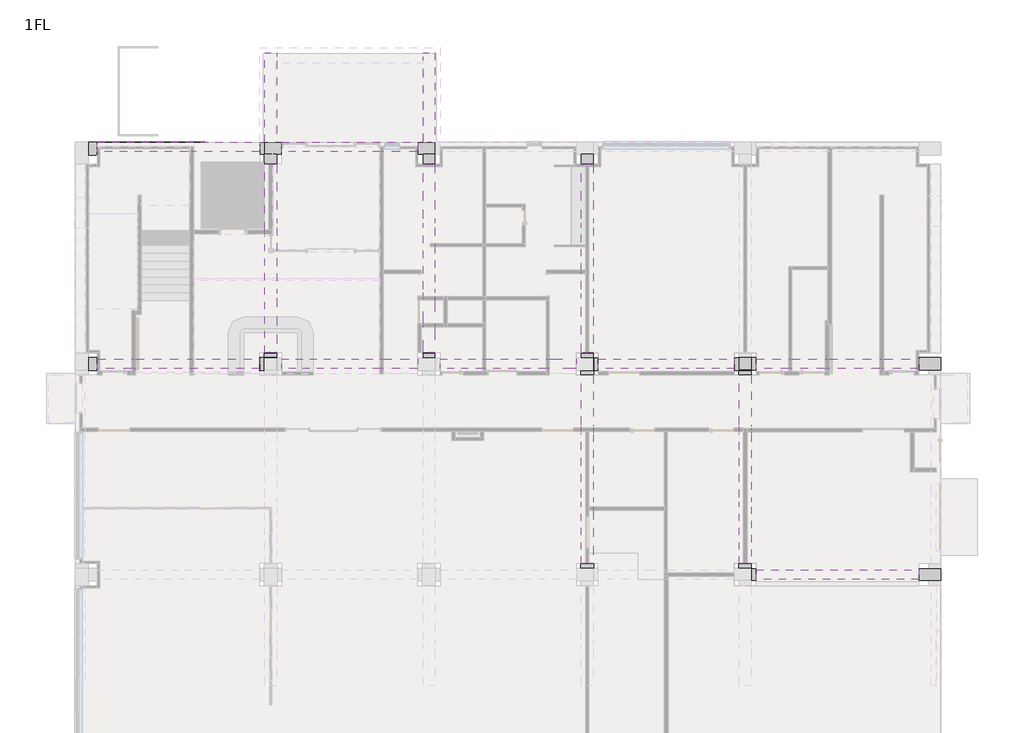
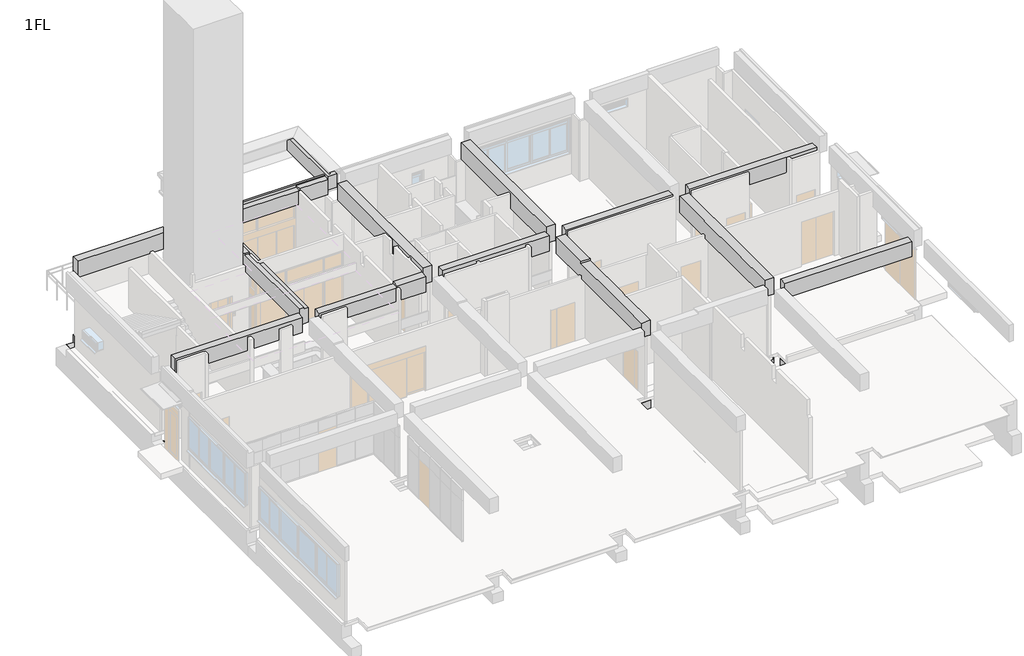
# One storey, part 6 of 7: 41 beams.
"""IFC4 building model written with IfcOpenShell, lengths in millimetres."""

from ifc_helpers import new_model, si_unit, frame, origin, place, context, project, spatial, polyline, outline, extrude, faceted_brep, element, save

model = new_model("IFC4")

# Units and contexts
model_context = context("Model", 3, world=origin())
ifc_project = project(units=[si_unit("LENGTHUNIT", "METRE", prefix="MILLI")], contexts=[model_context])

# Site, building, storey
site = spatial("IfcSite", under=ifc_project)
building = spatial("IfcBuilding", under=site)
storey = spatial("IfcBuildingStorey", under=building, Name="1FL", Elevation=0.0)

# Beams
placement = place(None, origin())
element("IfcBeam", 1, ObjectType="営_RC梁 : 2-RG2 350*850", at=placement, inside=storey, context=model_context, shape_type="SweptSolid", body=[
    extrude(outline(polyline([(25420.0, 7825.0), (25420.0, 8175.0), (31580.0, 8175.0), (31580.0, 7825.0), (25420.0, 7825.0)])), frame((0.0, 0.0, 3150.0), z_axis=(0.0, 0.0, 1.0), x_axis=(1.0, 0.0, 0.0)), (0.0, 0.0, 1.0), 790.0),
])
element("IfcBeam", 2, ObjectType="営_RC梁 : 2-RG2 350*850", at=placement, inside=storey, context=model_context, shape_type="Brep", body=[
    faceted_brep([(420.0, 15825.0, 3150.0), (1725.0, 15825.0, 3150.0), (1875.0, 15825.0, 3150.0), (6580.0, 15825.0, 3150.0), (6580.0, 15825.0, 3940.0), (420.0, 15825.0, 3940.0), (6580.0, 16175.0, 3150.0), (420.0, 16175.0, 3150.0), (1725.0, 16175.0, 3150.0), (1875.0, 16175.0, 3150.0), (420.0, 16175.0, 3940.0), (3825.0, 16175.0, 3940.0), (4175.0, 16175.0, 3940.0), (6580.0, 16175.0, 3940.0)], [[[0, 1, 2, 3, 4, 5]], [[6, 3, 2, 1, 0, 7, 8, 9]], [[6, 9, 8, 7, 10, 11, 12, 13]], [[3, 6, 13, 4]], [[7, 0, 5, 10]], [[5, 4, 13, 12, 11, 10]]]),
])
element("IfcBeam", 3, ObjectType="営_RC梁 : 2-RG2 350*850", at=placement, inside=storey, context=model_context, shape_type="Brep", body=[
    faceted_brep([(7420.0, 15825.0, 3150.0), (11140.0, 15825.0, 3150.0), (11260.0, 15825.0, 3150.0), (12580.0, 15825.0, 3150.0), (12580.0, 15825.0, 3940.0), (11200.0, 15825.0, 3940.0), (11200.0, 15825.0, 3850.0), (11140.0, 15825.0, 3850.0), (7420.0, 15825.0, 3850.0), (7420.0, 16175.0, 3150.0), (11140.0, 16175.0, 3150.0), (11260.0, 16175.0, 3150.0), (12580.0, 16175.0, 3150.0), (7420.0, 16175.0, 3850.0), (11140.0, 16175.0, 3850.0), (11200.0, 16175.0, 3850.0), (11200.0, 16175.0, 3940.0), (12580.0, 16175.0, 3940.0)], [[[0, 1, 2, 3, 4, 5, 6, 7, 8]], [[0, 9, 10, 11, 12, 3, 2, 1]], [[12, 11, 10, 9, 13, 14, 15, 16, 17]], [[9, 0, 8, 13]], [[3, 12, 17, 4]], [[6, 15, 14, 13, 8, 7]], [[15, 6, 5, 16]], [[5, 4, 17, 16]]]),
])
element("IfcBeam", 4, ObjectType="営_RC梁 : 2-RG2 350*850", at=placement, inside=storey, context=model_context, shape_type="Brep", body=[
    faceted_brep([(13420.0, 15825.0, 3150.0), (15040.0, 15825.0, 3150.0), (15160.0, 15825.0, 3150.0), (17440.0, 15825.0, 3150.0), (17560.0, 15825.0, 3150.0), (18580.0, 15825.0, 3150.0), (18580.0, 15825.0, 3940.0), (13420.0, 15825.0, 3940.0), (13420.0, 16175.0, 3150.0), (15040.0, 16175.0, 3150.0), (15160.0, 16175.0, 3150.0), (17440.0, 16175.0, 3150.0), (17560.0, 16175.0, 3150.0), (18580.0, 16175.0, 3150.0), (13420.0, 16175.0, 3940.0), (18580.0, 16175.0, 3940.0)], [[[0, 1, 2, 3, 4, 5, 6, 7]], [[0, 8, 9, 10, 11, 12, 13, 5, 4, 3, 2, 1]], [[13, 12, 11, 10, 9, 8, 14, 15]], [[8, 0, 7, 14]], [[5, 13, 15, 6]], [[7, 6, 15, 14]]]),
])
element("IfcBeam", 5, ObjectType="営_RC梁 : 2-RG2 350*850", at=placement, inside=storey, context=model_context, shape_type="SweptSolid", body=[
    extrude(outline(polyline([(19420.0, 15825.0), (19420.0, 16175.0), (24580.0, 16175.0), (24580.0, 15825.0), (19420.0, 15825.0)])), frame((0.0, 0.0, 3150.0), z_axis=(0.0, 0.0, 1.0), x_axis=(1.0, 0.0, 0.0)), (0.0, 0.0, 1.0), 790.0),
])
element("IfcBeam", 6, ObjectType="営_RC梁 : 2-RG2 350*850", at=placement, inside=storey, context=model_context, shape_type="Brep", body=[
    faceted_brep([(25420.0, 15825.0, 3150.0), (26640.0, 15825.0, 3150.0), (26760.0, 15825.0, 3150.0), (28025.0, 15825.0, 3150.0), (28175.0, 15825.0, 3150.0), (30105.0, 15825.0, 3150.0), (30255.0, 15825.0, 3150.0), (31580.0, 15825.0, 3150.0), (31580.0, 15825.0, 3940.0), (25420.0, 15825.0, 3940.0), (25420.0, 16175.0, 3150.0), (26640.0, 16175.0, 3150.0), (26760.0, 16175.0, 3150.0), (28025.0, 16175.0, 3150.0), (28175.0, 16175.0, 3150.0), (30105.0, 16175.0, 3150.0), (30255.0, 16175.0, 3150.0), (31580.0, 16175.0, 3150.0), (25420.0, 16175.0, 3940.0), (31580.0, 16175.0, 3940.0)], [[[0, 1, 2, 3, 4, 5, 6, 7, 8, 9]], [[0, 10, 11, 12, 13, 14, 15, 16, 17, 7, 6, 5, 4, 3, 2, 1]], [[17, 16, 15, 14, 13, 12, 11, 10, 18, 19]], [[10, 0, 9, 18]], [[7, 17, 19, 8]], [[9, 8, 19, 18]]]),
])
element("IfcBeam", 7, ObjectType="営_RC梁 : 2-RG1 350*850", at=placement, inside=storey, context=model_context, shape_type="Brep", body=[
    faceted_brep([(420.0, 24050.0, 4000.0), (420.0, 24420.0, 4000.0), (420.0, 24420.0, 3150.0), (420.0, 24250.0, 3150.0), (420.0, 24050.0, 3150.0), (3925.0, 24050.0, 3150.0), (4075.0, 24050.0, 3150.0), (6580.0, 24050.0, 3150.0), (6580.0, 24050.0, 4000.0), (4175.0, 24050.0, 4000.0), (3825.0, 24050.0, 4000.0), (6580.0, 24420.0, 3150.0), (6580.0, 24250.0, 3150.0), (6580.0, 24420.0, 4000.0)], [[[0, 1, 2, 3, 4]], [[0, 4, 5, 6, 7, 8, 9, 10]], [[4, 3, 2, 11, 12, 7, 6, 5]], [[2, 1, 13, 11]], [[1, 0, 10, 9, 8, 13]], [[8, 7, 12, 11, 13]]]),
])
element("IfcBeam", 8, ObjectType="営_RC梁 : 2-RG1 350*850", at=placement, inside=storey, context=model_context, shape_type="Brep", body=[
    faceted_brep([(7420.0, 24420.0, 4000.0), (7420.0, 24420.0, 3150.0), (7420.0, 24250.0, 3150.0), (7420.0, 24050.0, 3150.0), (7420.0, 24050.0, 3850.0), (7420.0, 24250.0, 3850.0), (7420.0, 24335.0, 3850.0), (7420.0, 24335.0, 4000.0), (11140.0, 24050.0, 3150.0), (11260.0, 24050.0, 3150.0), (12580.0, 24050.0, 3150.0), (12580.0, 24050.0, 3940.0), (11200.0, 24050.0, 3940.0), (11200.0, 24050.0, 3850.0), (11140.0, 24050.0, 3850.0), (12580.0, 24420.0, 3150.0), (12580.0, 24250.0, 3150.0), (12580.0, 24420.0, 4000.0), (12580.0, 24335.0, 4000.0), (12580.0, 24335.0, 3940.0), (12580.0, 24250.0, 3940.0), (11200.0, 24335.0, 3850.0), (11200.0, 24250.0, 3850.0), (11200.0, 24250.0, 3940.0), (11200.0, 24335.0, 3940.0)], [[[0, 1, 2, 3, 4, 5, 6, 7]], [[3, 8, 9, 10, 11, 12, 13, 14, 4]], [[3, 2, 1, 15, 16, 10, 9, 8]], [[1, 0, 17, 15]], [[17, 0, 7, 18]], [[10, 16, 15, 17, 18, 19, 20, 11]], [[21, 6, 5, 4, 14, 13, 22]], [[21, 22, 13, 12, 23, 24]], [[6, 21, 24, 19, 18, 7]], [[19, 24, 23, 12, 11, 20]]]),
])
element("IfcBeam", 9, ObjectType="営_RC梁 : 2-4G12 450*900", at=placement, inside=storey, context=model_context, shape_type="Brep", body=[
    faceted_brep([(7225.0, 16420.0, 3100.0), (7225.0, 23580.0, 3100.0), (7225.0, 23580.0, 3850.0), (7225.0, 21515.0, 3850.0), (7225.0, 21165.0, 3850.0), (7225.0, 18845.0, 3850.0), (7225.0, 18495.0, 3850.0), (7225.0, 16420.0, 3850.0), (6775.0, 16420.0, 3100.0), (6775.0, 20925.0, 3100.0), (6775.0, 21075.0, 3100.0), (6775.0, 23580.0, 3100.0), (6925.0, 23580.0, 3100.0), (7075.0, 23580.0, 3100.0), (6775.0, 23580.0, 4000.0), (6775.0, 16420.0, 3940.0), (6775.0, 20825.0, 3940.0), (6775.0, 21000.0, 3940.0), (6775.0, 21000.0, 4000.0), (6775.0, 21075.0, 4000.0), (7000.0, 23580.0, 4000.0), (7000.0, 21000.0, 4000.0), (7000.0, 16420.0, 3850.0), (7000.0, 16420.0, 3940.0), (7000.0, 23580.0, 3850.0), (7000.0, 21000.0, 3940.0)], [[[0, 1, 2, 3, 4, 5, 6, 7]], [[0, 8, 9, 10, 11, 12, 13, 1]], [[14, 11, 10, 9, 8, 15, 16, 17, 18, 19]], [[20, 14, 19, 18, 21]], [[8, 0, 7, 22, 23, 15]], [[1, 13, 12, 11, 14, 20, 24, 2]], [[24, 22, 7, 6, 5, 4, 3, 2]], [[22, 24, 20, 21, 25, 23]], [[25, 17, 16, 15, 23]], [[17, 25, 21, 18]]]),
])
element("IfcBeam", 10, ObjectType="営_RC梁 : 2-4G12 450*900", at=placement, inside=storey, context=model_context, shape_type="Brep", body=[
    faceted_brep([(13225.0, 16420.0, 3100.0), (13225.0, 17400.0, 3100.0), (13225.0, 17520.0, 3100.0), (13225.0, 18430.0, 3100.0), (13225.0, 18550.0, 3100.0), (13225.0, 20450.0, 3100.0), (13225.0, 20570.0, 3100.0), (13225.0, 23580.0, 3100.0), (13225.0, 23580.0, 3940.0), (13225.0, 21515.0, 3940.0), (13225.0, 21165.0, 3940.0), (13225.0, 18845.0, 3940.0), (13225.0, 18495.0, 3940.0), (13225.0, 16420.0, 3940.0), (12775.0, 16420.0, 3100.0), (12775.0, 17400.0, 3100.0), (12775.0, 17520.0, 3100.0), (12775.0, 18430.0, 3100.0), (12775.0, 18550.0, 3100.0), (12775.0, 23580.0, 3100.0), (12775.0, 16420.0, 3940.0), (12775.0, 18495.0, 3940.0), (12775.0, 18845.0, 3940.0), (12775.0, 21165.0, 3940.0), (12775.0, 21515.0, 3940.0), (12775.0, 23580.0, 3940.0)], [[[0, 1, 2, 3, 4, 5, 6, 7, 8, 9, 10, 11, 12, 13]], [[0, 14, 15, 16, 17, 18, 19, 7, 6, 5, 4, 3, 2, 1]], [[19, 18, 17, 16, 15, 14, 20, 21, 22, 23, 24, 25]], [[14, 0, 13, 20]], [[7, 19, 25, 8]], [[13, 12, 11, 10, 9, 8, 25, 24, 23, 22, 21, 20]]]),
])
element("IfcBeam", 11, ObjectType="営_RC梁 : 2-4G12 450*900", at=placement, inside=storey, context=model_context, shape_type="Brep", body=[
    faceted_brep([(19225.0, 8420.0, 3100.0), (19225.0, 10440.0, 3100.0), (19225.0, 10560.0, 3100.0), (19225.0, 13440.0, 3100.0), (19225.0, 13560.0, 3100.0), (19225.0, 15580.0, 3100.0), (19225.0, 15580.0, 3940.0), (19225.0, 13675.0, 3940.0), (19225.0, 13500.0, 3940.0), (19225.0, 13500.0, 3850.0), (19225.0, 13325.0, 3850.0), (19225.0, 10925.0, 3850.0), (19225.0, 10575.0, 3850.0), (19225.0, 10560.0, 3850.0), (19225.0, 10440.0, 3850.0), (19225.0, 8420.0, 3850.0), (19060.0, 8420.0, 3100.0), (18940.0, 8420.0, 3100.0), (18775.0, 8420.0, 3100.0), (18775.0, 13440.0, 3100.0), (18775.0, 13560.0, 3100.0), (18775.0, 15580.0, 3100.0), (18775.0, 8420.0, 3850.0), (18775.0, 10575.0, 3850.0), (18775.0, 10925.0, 3850.0), (18775.0, 13325.0, 3850.0), (18775.0, 13500.0, 3850.0), (18775.0, 13500.0, 3940.0), (18775.0, 13675.0, 3940.0), (18775.0, 15580.0, 3940.0)], [[[0, 1, 2, 3, 4, 5, 6, 7, 8, 9, 10, 11, 12, 13, 14, 15]], [[0, 16, 17, 18, 19, 20, 21, 5, 4, 3, 2, 1]], [[21, 20, 19, 18, 22, 23, 24, 25, 26, 27, 28, 29]], [[18, 17, 16, 0, 15, 22]], [[5, 21, 29, 6]], [[9, 26, 25, 24, 23, 22, 15, 14, 13, 12, 11, 10]], [[26, 9, 8, 27]], [[8, 7, 6, 29, 28, 27]]]),
])
element("IfcBeam", 12, ObjectType="営_RC梁 : 2-4G12 450*900", at=placement, inside=storey, context=model_context, shape_type="Brep", body=[
    faceted_brep([(19225.0, 16420.0, 3100.0), (19225.0, 23580.0, 3100.0), (19225.0, 23580.0, 3940.0), (19225.0, 21515.0, 3940.0), (19225.0, 21165.0, 3940.0), (19225.0, 18845.0, 3940.0), (19225.0, 18495.0, 3940.0), (19225.0, 16420.0, 3940.0), (19060.0, 16420.0, 3100.0), (18940.0, 16420.0, 3100.0), (18775.0, 16420.0, 3100.0), (18775.0, 19430.0, 3100.0), (18775.0, 19550.0, 3100.0), (18775.0, 23580.0, 3100.0), (18940.0, 23580.0, 3100.0), (19060.0, 23580.0, 3100.0), (18775.0, 16420.0, 3940.0), (18775.0, 18495.0, 3940.0), (18775.0, 18845.0, 3940.0), (18775.0, 21165.0, 3940.0), (18775.0, 21515.0, 3940.0), (18775.0, 23580.0, 3940.0)], [[[0, 1, 2, 3, 4, 5, 6, 7]], [[0, 8, 9, 10, 11, 12, 13, 14, 15, 1]], [[13, 12, 11, 10, 16, 17, 18, 19, 20, 21]], [[10, 9, 8, 0, 7, 16]], [[1, 15, 14, 13, 21, 2]], [[7, 6, 5, 4, 3, 2, 21, 20, 19, 18, 17, 16]]]),
])
element("IfcBeam", 13, ObjectType="営_RC梁 : 2-4G12 450*900", at=placement, inside=storey, context=model_context, shape_type="Brep", body=[
    faceted_brep([(25225.0, 8420.0, 3100.0), (25225.0, 13405.0, 3100.0), (25225.0, 13555.0, 3100.0), (25225.0, 15580.0, 3100.0), (25225.0, 15580.0, 3940.0), (25225.0, 13675.0, 3940.0), (25225.0, 13325.0, 3940.0), (25225.0, 10925.0, 3940.0), (25225.0, 10575.0, 3940.0), (25225.0, 8420.0, 3940.0), (25075.0, 8420.0, 3100.0), (24925.0, 8420.0, 3100.0), (24775.0, 8420.0, 3100.0), (24775.0, 13440.0, 3100.0), (24775.0, 13560.0, 3100.0), (24775.0, 15580.0, 3100.0), (24775.0, 8420.0, 3940.0), (24775.0, 10575.0, 3940.0), (24775.0, 10925.0, 3940.0), (24775.0, 13325.0, 3940.0), (24775.0, 13675.0, 3940.0), (24775.0, 15580.0, 3940.0)], [[[0, 1, 2, 3, 4, 5, 6, 7, 8, 9]], [[0, 10, 11, 12, 13, 14, 15, 3, 2, 1]], [[15, 14, 13, 12, 16, 17, 18, 19, 20, 21]], [[12, 11, 10, 0, 9, 16]], [[3, 15, 21, 4]], [[9, 8, 7, 6, 5, 4, 21, 20, 19, 18, 17, 16]]]),
])
element("IfcBeam", 14, ObjectType="営_RC梁 : FG1 450*1200", at=placement, inside=storey, context=model_context, shape_type="Brep", body=[
    faceted_brep([(420.0, 23930.0, -400.0), (400.0, 23930.0, -400.0), (70.0, 23930.0, -400.0), (70.0, 23930.0, -1300.0), (1500.0, 23930.0, -1300.0), (4124.0, 23930.0, -1300.0), (4514.0, 23930.0, -1300.0), (4514.0, 23930.0, -10.0), (4124.0, 23930.0, -10.0), (4075.0, 23930.0, -10.0), (4075.0, 23930.0, -160.0), (420.0, 23930.0, -160.0), (70.0, 24420.0, -1300.0), (1500.0, 24420.0, -1300.0), (4124.0, 24420.0, -1300.0), (4514.0, 24420.0, -1300.0), (4514.0, 24400.0, -1300.0), (4514.0, 23950.0, -1300.0), (420.0, 24420.0, -400.0), (420.0, 24420.0, -10.0), (4514.0, 24420.0, -10.0), (4514.0, 24420.0, -300.0), (70.0, 24420.0, -400.0), (4514.0, 24250.0, -10.0), (420.0, 24250.0, -10.0), (4075.0, 24250.0, -10.0), (420.0, 24250.0, -160.0), (4075.0, 24250.0, -160.0)], [[[0, 1, 2, 3, 4, 5, 6, 7, 8, 9, 10, 11]], [[3, 12, 13, 14, 15, 16, 17, 6, 5, 4]], [[18, 19, 20, 21, 15, 14, 13, 12, 22]], [[7, 23, 20, 19, 24, 25, 9, 8]], [[0, 18, 22, 2, 1]], [[18, 0, 11, 26, 24, 19]], [[3, 2, 22, 12]], [[7, 6, 17, 16, 15, 21, 20, 23]], [[27, 26, 11, 10]], [[25, 27, 10, 9]], [[27, 25, 24, 26]]]),
])
element("IfcBeam", 15, ObjectType="営_RC梁 : FG2 450*1200", at=placement, inside=storey, context=model_context, shape_type="Brep", body=[
    faceted_brep([(7227.3929084, 15755.0, -950.0), (6755.0, 15755.0, -950.0), (6600.0, 15755.0, -950.0), (6580.0, 15755.0, -950.0), (6580.0, 15755.0, -160.0), (420.0, 15755.0, -160.0), (420.0, 15755.0, -400.0), (400.0, 15755.0, -400.0), (70.0, 15755.0, -400.0), (70.0, 15755.0, -1300.0), (1500.0, 15755.0, -1300.0), (5350.0, 15755.0, -1300.0), (6755.0, 15755.0, -1300.0), (7227.3929084, 15755.0, -1300.0), (7225.0, 16245.0, -1300.0), (7225.0, 16000.0, -1300.0), (7227.3929084, 16000.0, -1300.0), (70.0, 16245.0, -1300.0), (1500.0, 16245.0, -1300.0), (5350.0, 16245.0, -1300.0), (6755.0, 16245.0, -1300.0), (6580.0, 16245.0, -950.0), (6600.0, 16245.0, -950.0), (6755.0, 16245.0, -950.0), (7225.0, 16245.0, -950.0), (70.0, 16245.0, -400.0), (400.0, 16245.0, -400.0), (420.0, 16245.0, -400.0), (420.0, 16245.0, -160.0), (6580.0, 16245.0, -160.0), (7227.3929084, 16000.0, -950.0), (7225.0, 16000.0, -950.0), (7225.0, 16225.0, -950.0)], [[[0, 1, 2, 3, 4, 5, 6, 7, 8, 9, 10, 11, 12, 13]], [[14, 15, 16, 13, 12, 11, 10, 9, 17, 18, 19, 20]], [[21, 22, 23, 24, 14, 20, 19, 18, 17, 25, 26, 27, 28, 29]], [[13, 16, 30, 0]], [[21, 3, 2, 1, 0, 30, 31, 32, 24, 23, 22]], [[3, 21, 29, 4]], [[6, 27, 26, 25, 8, 7]], [[27, 6, 5, 28]], [[15, 14, 24, 32, 31]], [[9, 8, 25, 17]], [[16, 15, 31, 30]], [[5, 4, 29, 28]]]),
])
element("IfcBeam", 16, ObjectType="営_RC梁 : FG3 450*1850", at=placement, inside=storey, context=model_context, shape_type="Brep", body=[
    faceted_brep([(19420.0, 15755.0, -950.0), (19400.0, 15755.0, -950.0), (19245.0, 15755.0, -950.0), (18772.6070916, 15755.0, -950.0), (18772.6070916, 15755.0, -1950.0), (20650.0, 15755.0, -1950.0), (23350.0, 15755.0, -1950.0), (24755.0, 15755.0, -1950.0), (25225.0, 15755.0, -1950.0), (25225.0, 15755.0, -1500.0), (24755.0, 15755.0, -1500.0), (24600.0, 15755.0, -1500.0), (24580.0, 15755.0, -1500.0), (24580.0, 15755.0, -250.0), (19420.0, 15755.0, -250.0), (24755.0, 15775.0, -1950.0), (25225.0, 15775.0, -1950.0), (18772.6070916, 16000.0, -1950.0), (18775.0, 16000.0, -1950.0), (18775.0, 16225.0, -1950.0), (19225.0, 16225.0, -1950.0), (20650.0, 16225.0, -1950.0), (23350.0, 16225.0, -1950.0), (24755.0, 16225.0, -1950.0), (18775.0, 16225.0, -950.0), (19225.0, 16225.0, -950.0), (19400.0, 16225.0, -950.0), (19420.0, 16225.0, -950.0), (19420.0, 16225.0, -250.0), (24580.0, 16225.0, -250.0), (24580.0, 16225.0, -1500.0), (24600.0, 16225.0, -1500.0), (24755.0, 16225.0, -1500.0), (18772.6070916, 16000.0, -950.0), (18775.0, 16000.0, -950.0), (25225.0, 15775.0, -1500.0), (24755.0, 15775.0, -1500.0)], [[[0, 1, 2, 3, 4, 5, 6, 7, 8, 9, 10, 11, 12, 13, 14]], [[15, 16, 8, 7, 6, 5, 4, 17, 18, 19, 20, 21, 22, 23]], [[24, 25, 26, 27, 28, 29, 30, 31, 32, 23, 22, 21, 20, 19]], [[17, 4, 3, 33]], [[0, 27, 26, 25, 24, 34, 33, 3, 2, 1]], [[27, 0, 14, 28]], [[12, 30, 29, 13]], [[9, 8, 16, 35]], [[30, 12, 11, 10, 9, 35, 36, 32, 31]], [[16, 15, 36, 35]], [[15, 23, 32, 36]], [[18, 17, 33, 34]], [[19, 18, 34, 24]], [[14, 13, 29, 28]]]),
])
element("IfcBeam", 17, ObjectType="営_RC梁 : FG4 450*2400", at=placement, inside=storey, context=model_context, shape_type="Brep", body=[
    faceted_brep([(25420.0, 15775.0, -1500.0), (25400.0, 15775.0, -1500.0), (25225.0, 15775.0, -1500.0), (24755.0, 15775.0, -1500.0), (24755.0, 15775.0, -1950.0), (24755.0, 15775.0, -2500.0), (25225.0, 15775.0, -2500.0), (26650.0, 15775.0, -2500.0), (30650.0, 15775.0, -2500.0), (31950.0, 15775.0, -2500.0), (32420.0, 15775.0, -2500.0), (32420.0, 15775.0, -1900.0), (31950.0, 15775.0, -1900.0), (31600.0, 15775.0, -1900.0), (31580.0, 15775.0, -1900.0), (31580.0, 15775.0, -160.0), (25420.0, 15775.0, -160.0), (32420.0, 16245.0, -2500.0), (24755.0, 16245.0, -2500.0), (26650.0, 16245.0, -2500.0), (30650.0, 16245.0, -2500.0), (24755.0, 16245.0, -1500.0), (24775.0, 16245.0, -1500.0), (25225.0, 16245.0, -1500.0), (25400.0, 16245.0, -1500.0), (25420.0, 16245.0, -1500.0), (25420.0, 16245.0, -160.0), (28025.0, 16245.0, -160.0), (28395.0, 16245.0, -160.0), (31580.0, 16245.0, -160.0), (31580.0, 16245.0, -1900.0), (31600.0, 16245.0, -1900.0), (32400.0, 16245.0, -1900.0), (32420.0, 16245.0, -1900.0), (32420.0, 16245.0, -1904.2105263), (24755.0, 16225.0, -1500.0)], [[[0, 1, 2, 3, 4, 5, 6, 7, 8, 9, 10, 11, 12, 13, 14, 15, 16]], [[17, 10, 9, 8, 7, 6, 5, 18, 19, 20]], [[21, 22, 23, 24, 25, 26, 27, 28, 29, 30, 31, 32, 33, 34, 17, 20, 19, 18]], [[25, 0, 16, 26]], [[14, 30, 29, 15]], [[10, 17, 34, 33, 11]], [[0, 25, 24, 23, 22, 21, 35, 3, 2, 1]], [[30, 14, 13, 12, 11, 33, 32, 31]], [[18, 5, 4, 3, 35, 21]], [[16, 15, 29, 28, 27, 26]]]),
])
element("IfcBeam", 18, ObjectType="営_RC梁 : FG4 450*2400", at=placement, inside=storey, context=model_context, shape_type="Brep", body=[
    faceted_brep([(24775.0, 7775.0, -1500.0), (24775.0, 7775.0, -2500.0), (25225.0, 7775.0, -2500.0), (26650.0, 7775.0, -2500.0), (26650.0, 7775.0, -2300.0), (30500.0, 7775.0, -2300.0), (30500.0, 7775.0, -2500.0), (31950.0, 7775.0, -2500.0), (32420.0, 7775.0, -2500.0), (32420.0, 7775.0, -1500.0), (31950.0, 7775.0, -1500.0), (31600.0, 7775.0, -1500.0), (31580.0, 7775.0, -1500.0), (31580.0, 7775.0, -160.0), (25420.0, 7775.0, -160.0), (25420.0, 7775.0, -1500.0), (25400.0, 7775.0, -1500.0), (25225.0, 7775.0, -1500.0), (32420.0, 8225.0, -2500.0), (30500.0, 8225.0, -2500.0), (31950.0, 8225.0, -2500.0), (24775.0, 8225.0, -2500.0), (24775.0, 8225.0, -1500.0), (25225.0, 8225.0, -1500.0), (25400.0, 8225.0, -1500.0), (25420.0, 8225.0, -1500.0), (25420.0, 8225.0, -160.0), (31580.0, 8225.0, -160.0), (31580.0, 8225.0, -1500.0), (31600.0, 8225.0, -1500.0), (31950.0, 8225.0, -1500.0), (32420.0, 8225.0, -1500.0), (30500.0, 8225.0, -2300.0), (26650.0, 8225.0, -2300.0), (26650.0, 8225.0, -2500.0), (25225.0, 8225.0, -2500.0)], [[[0, 1, 2, 3, 4, 5, 6, 7, 8, 9, 10, 11, 12, 13, 14, 15, 16, 17]], [[18, 8, 7, 6, 19, 20]], [[21, 22, 23, 24, 25, 26, 27, 28, 29, 30, 31, 18, 20, 19, 32, 33, 34, 35]], [[25, 15, 14, 26]], [[12, 28, 27, 13]], [[21, 1, 0, 22]], [[8, 18, 31, 9]], [[15, 25, 24, 23, 22, 0, 17, 16]], [[28, 12, 11, 10, 9, 31, 30, 29]], [[32, 5, 4, 33]], [[5, 32, 19, 6]], [[33, 4, 3, 34]], [[1, 21, 35, 34, 3, 2]], [[14, 13, 27, 26]]]),
])
element("IfcBeam", 19, ObjectType="営_RC梁 : FG3 450*1850", at=placement, inside=storey, context=model_context, shape_type="Brep", body=[
    faceted_brep([(7420.0, 23950.0, -950.0), (7225.0, 23950.0, -950.0), (6755.0, 23950.0, -950.0), (6755.0, 23950.0, -1300.0), (6755.0, 23950.0, -1950.0), (7225.0, 23950.0, -1950.0), (8500.0, 23950.0, -1950.0), (11650.0, 23950.0, -1950.0), (12775.0, 23950.0, -1950.0), (13225.0, 23950.0, -1950.0), (13225.0, 23950.0, -1350.0), (12775.0, 23950.0, -1350.0), (12600.0, 23950.0, -1350.0), (12580.0, 23950.0, -1350.0), (12580.0, 23950.0, -160.0), (11375.0, 23950.0, -160.0), (11025.0, 23950.0, -160.0), (7420.0, 23950.0, -160.0), (6755.0, 24420.0, -1950.0), (8500.0, 24420.0, -1950.0), (11650.0, 24420.0, -1950.0), (13225.0, 24420.0, -1950.0), (6755.0, 24420.0, -950.0), (7420.0, 24420.0, -950.0), (7420.0, 24420.0, -10.0), (11340.0, 24420.0, -10.0), (11860.0, 24420.0, -10.0), (12580.0, 24420.0, -10.0), (12580.0, 24420.0, -1350.0), (13225.0, 24420.0, -1350.0), (6755.0, 24420.0, -1455.4545455), (7420.0, 24250.0, -10.0), (12580.0, 24250.0, -10.0), (6755.0, 24400.0, -950.0), (7420.0, 24250.0, -160.0), (12580.0, 24250.0, -160.0)], [[[0, 1, 2, 3, 4, 5, 6, 7, 8, 9, 10, 11, 12, 13, 14, 15, 16, 17]], [[4, 18, 19, 20, 21, 9, 8, 7, 6, 5]], [[22, 23, 24, 25, 26, 27, 28, 29, 21, 20, 19, 18, 30]], [[27, 26, 25, 24, 31, 32]], [[0, 23, 22, 33, 2, 1]], [[23, 0, 17, 34, 31, 24]], [[28, 27, 32, 35, 14, 13]], [[18, 4, 3, 2, 33, 22, 30]], [[9, 21, 29, 10]], [[28, 13, 12, 11, 10, 29]], [[35, 34, 17, 16, 15, 14]], [[34, 35, 32, 31]]]),
])
element("IfcBeam", 20, ObjectType="営_RC梁 : FG13 450*1850", at=placement, inside=storey, context=model_context, shape_type="Brep", body=[
    faceted_brep([(7225.0, 16420.0, -950.0), (7225.0, 16400.0, -950.0), (7225.0, 16225.0, -950.0), (7225.0, 15755.0, -950.0), (7225.0, 15755.0, -1300.0), (7225.0, 15755.0, -1950.0), (7225.0, 16225.0, -1950.0), (7225.0, 17650.0, -1950.0), (7225.0, 22500.0, -1950.0), (7225.0, 23950.0, -1950.0), (7225.0, 23950.0, -1450.0), (7225.0, 23950.0, -950.0), (7225.0, 23580.0, -950.0), (7225.0, 23580.0, -160.0), (7225.0, 16420.0, -160.0), (6755.0, 15755.0, -1950.0), (6755.0, 17650.0, -1950.0), (6755.0, 22500.0, -1950.0), (6755.0, 23950.0, -1950.0), (6755.0, 15755.0, -950.0), (6755.0, 16245.0, -950.0), (6755.0, 16400.0, -950.0), (6755.0, 16420.0, -950.0), (6755.0, 16420.0, -160.0), (6755.0, 21075.0, -160.0), (6755.0, 21075.0, -10.0), (6755.0, 23580.0, -10.0), (6755.0, 23580.0, -950.0), (6755.0, 23950.0, -950.0), (6755.0, 15755.0, -1300.0), (6925.0, 23580.0, -10.0), (6925.0, 21075.0, -10.0), (6925.0, 23580.0, -160.0), (6925.0, 21075.0, -160.0)], [[[0, 1, 2, 3, 4, 5, 6, 7, 8, 9, 10, 11, 12, 13, 14]], [[5, 15, 16, 17, 18, 9, 8, 7, 6]], [[19, 20, 21, 22, 23, 24, 25, 26, 27, 28, 18, 17, 16, 15, 29]], [[30, 26, 25, 31]], [[15, 5, 4, 3, 19, 29]], [[0, 22, 21, 20, 19, 3, 2, 1]], [[22, 0, 14, 23]], [[27, 12, 11, 28]], [[12, 27, 26, 30, 32, 13]], [[11, 10, 9, 18, 28]], [[32, 33, 24, 23, 14, 13]], [[33, 31, 25, 24]], [[31, 33, 32, 30]]]),
])
element("IfcBeam", 21, ObjectType="営_RC梁 : FG13 450*1850", at=placement, inside=storey, context=model_context, shape_type="Brep", body=[
    faceted_brep([(13225.0, 16420.0, -950.0), (13225.0, 16400.0, -950.0), (13225.0, 16225.0, -950.0), (13225.0, 15755.0, -950.0), (13225.0, 15755.0, -1300.0), (13225.0, 15755.0, -1950.0), (13225.0, 16225.0, -1950.0), (13225.0, 17650.0, -1950.0), (13225.0, 22650.0, -1950.0), (13225.0, 23950.0, -1950.0), (13225.0, 23950.0, -1350.0), (13225.0, 23600.0, -1350.0), (13225.0, 23580.0, -1350.0), (13225.0, 23580.0, -160.0), (13225.0, 21515.0, -160.0), (13225.0, 21165.0, -160.0), (13225.0, 18845.0, -160.0), (13225.0, 18495.0, -160.0), (13225.0, 16420.0, -160.0), (12775.0, 15755.0, -1950.0), (12775.0, 16225.0, -1950.0), (12775.0, 17650.0, -1950.0), (12775.0, 22650.0, -1950.0), (12775.0, 23950.0, -1950.0), (12775.0, 15755.0, -950.0), (12775.0, 16225.0, -950.0), (12775.0, 16400.0, -950.0), (12775.0, 16420.0, -950.0), (12775.0, 16420.0, -160.0), (12775.0, 23580.0, -160.0), (12775.0, 23580.0, -1350.0), (12775.0, 23600.0, -1350.0), (12775.0, 23950.0, -1350.0)], [[[0, 1, 2, 3, 4, 5, 6, 7, 8, 9, 10, 11, 12, 13, 14, 15, 16, 17, 18]], [[5, 19, 20, 21, 22, 23, 9, 8, 7, 6]], [[24, 25, 26, 27, 28, 29, 30, 31, 32, 23, 22, 21, 20, 19]], [[19, 5, 4, 3, 24]], [[0, 27, 26, 25, 24, 3, 2, 1]], [[27, 0, 18, 28]], [[12, 30, 29, 13]], [[30, 12, 11, 10, 32, 31]], [[10, 9, 23, 32]], [[18, 17, 16, 15, 14, 13, 29, 28]]]),
])
element("IfcBeam", 22, ObjectType="営_RC梁 : FG12 450*1200", at=placement, inside=storey, context=model_context, shape_type="Brep", body=[
    faceted_brep([(19245.0, 7775.0, -1300.0), (19245.0, 8245.0, -1300.0), (19245.0, 9650.0, -1300.0), (19245.0, 14350.0, -1300.0), (19245.0, 15755.0, -1300.0), (19245.0, 16225.0, -1300.0), (19245.0, 16225.0, -950.0), (19245.0, 15755.0, -950.0), (19245.0, 15600.0, -950.0), (19245.0, 15580.0, -950.0), (19245.0, 15580.0, -160.0), (19245.0, 13500.0, -160.0), (19245.0, 13500.0, -250.0), (19245.0, 8420.0, -250.0), (19245.0, 8420.0, -950.0), (19245.0, 8400.0, -950.0), (19245.0, 8245.0, -950.0), (19245.0, 7775.0, -950.0), (19225.0, 7775.0, -1300.0), (19225.0, 8000.0, -1300.0), (19227.3929084, 8000.0, -1300.0), (19227.3929084, 8245.0, -1300.0), (18755.0, 8245.0, -1300.0), (18755.0, 9650.0, -1300.0), (18755.0, 14350.0, -1300.0), (18755.0, 15755.0, -1300.0), (18775.0, 15755.0, -1300.0), (19225.0, 15755.0, -1300.0), (19225.0, 16225.0, -1300.0), (18755.0, 8245.0, -950.0), (18755.0, 8400.0, -950.0), (18755.0, 8420.0, -950.0), (18755.0, 8420.0, -250.0), (18755.0, 13500.0, -250.0), (18755.0, 13500.0, -160.0), (18755.0, 15580.0, -160.0), (18755.0, 15580.0, -950.0), (18755.0, 15600.0, -950.0), (18755.0, 15755.0, -950.0), (19225.0, 7775.0, -950.0), (19225.0, 16225.0, -950.0), (19227.3929084, 8245.0, -950.0), (19227.3929084, 8000.0, -950.0), (19225.0, 8000.0, -950.0), (18775.0, 15755.0, -950.0), (19225.0, 15755.0, -950.0), (19000.0, 13500.0, -160.0), (19000.0, 13500.0, -250.0)], [[[0, 1, 2, 3, 4, 5, 6, 7, 8, 9, 10, 11, 12, 13, 14, 15, 16, 17]], [[5, 4, 3, 2, 1, 0, 18, 19, 20, 21, 22, 23, 24, 25, 26, 27, 28]], [[29, 30, 31, 32, 33, 34, 35, 36, 37, 38, 25, 24, 23, 22]], [[18, 0, 17, 39]], [[5, 28, 40, 6]], [[41, 29, 22, 21]], [[14, 31, 30, 29, 41, 42, 43, 39, 17, 16, 15]], [[31, 14, 13, 32]], [[25, 38, 44, 45, 27, 26]], [[28, 27, 45, 40]], [[9, 8, 7, 6, 40, 45, 44, 38, 37, 36]], [[9, 36, 35, 10]], [[21, 20, 42, 41]], [[20, 19, 43, 42]], [[19, 18, 39, 43]], [[11, 10, 35, 34, 46]], [[47, 33, 32, 13, 12]], [[47, 12, 11, 46]], [[33, 47, 46, 34]]]),
])
element("IfcBeam", 23, ObjectType="営_RC梁 : FG13 450*1850", at=placement, inside=storey, context=model_context, shape_type="Brep", body=[
    faceted_brep([(19225.0, 23580.0, -10.0), (19225.0, 16420.0, -10.0), (19225.0, 16420.0, -100.0), (19225.0, 23580.0, -100.0), (19000.0, 23580.0, -10.0), (19000.0, 16420.0, -10.0), (19000.0, 16420.0, -100.0), (19000.0, 23580.0, -100.0)], [[[0, 1, 2, 3]], [[1, 0, 4, 5]], [[1, 5, 6, 2]], [[4, 0, 3, 7]], [[5, 4, 7, 6]], [[3, 2, 6, 7]]]),
    faceted_brep([(19225.0, 15755.0, -1950.0), (18775.0, 15755.0, -1950.0), (18775.0, 16225.0, -1950.0), (18775.0, 17650.0, -1950.0), (18775.0, 22650.0, -1950.0), (18775.0, 23950.0, -1950.0), (19225.0, 23950.0, -1950.0), (19225.0, 22650.0, -1950.0), (19225.0, 17650.0, -1950.0), (19225.0, 16225.0, -1950.0), (18775.0, 15755.0, -950.0), (18775.0, 16225.0, -950.0), (18775.0, 16400.0, -950.0), (18775.0, 16420.0, -950.0), (18775.0, 16420.0, -160.0), (18775.0, 18495.0, -160.0), (18775.0, 18845.0, -160.0), (18775.0, 21165.0, -160.0), (18775.0, 21515.0, -160.0), (18775.0, 23580.0, -160.0), (18775.0, 23580.0, -1350.0), (18775.0, 23600.0, -1350.0), (18775.0, 23950.0, -1350.0), (19225.0, 15755.0, -1300.0), (19225.0, 15755.0, -950.0), (19225.0, 16420.0, -950.0), (19225.0, 16225.0, -950.0), (19225.0, 16400.0, -950.0), (19225.0, 23580.0, -1350.0), (19225.0, 23600.0, -1350.0), (19225.0, 23950.0, -1350.0), (19000.0, 16420.0, -160.0), (19000.0, 23580.0, -160.0), (19000.0, 23580.0, -250.0), (19000.0, 16420.0, -250.0), (19225.0, 16420.0, -250.0), (19225.0, 23580.0, -250.0)], [[[0, 1, 2, 3, 4, 5, 6, 7, 8, 9]], [[10, 11, 12, 13, 14, 15, 16, 17, 18, 19, 20, 21, 22, 5, 4, 3, 2, 1]], [[1, 0, 23, 24, 10]], [[25, 13, 12, 11, 10, 24, 26, 27]], [[20, 28, 29, 30, 22, 21]], [[30, 6, 5, 22]], [[19, 18, 17, 16, 15, 14, 31, 32]], [[33, 34, 35, 36]], [[34, 33, 32, 31]], [[25, 27, 26, 24, 23, 0, 9, 8, 7, 6, 30, 29, 28, 36, 35]], [[13, 25, 35, 34, 31, 14]], [[28, 20, 19, 32, 33, 36]]]),
])
element("IfcBeam", 24, ObjectType="営_RC梁 : FG14 450*2400", at=placement, inside=storey, context=model_context, shape_type="Brep", body=[
    faceted_brep([(25225.0, 7775.0, -2500.0), (25225.0, 8225.0, -2500.0), (25225.0, 9650.0, -2500.0), (25225.0, 14350.0, -2500.0), (25225.0, 15775.0, -2500.0), (25225.0, 16245.0, -2500.0), (25225.0, 16245.0, -1950.0), (25225.0, 16245.0, -1500.0), (25225.0, 15775.0, -1500.0), (25225.0, 15600.0, -1500.0), (25225.0, 15580.0, -1500.0), (25225.0, 15580.0, -160.0), (25225.0, 13675.0, -160.0), (25225.0, 13325.0, -160.0), (25225.0, 10925.0, -160.0), (25225.0, 10575.0, -160.0), (25225.0, 8420.0, -160.0), (25225.0, 8420.0, -1500.0), (25225.0, 8400.0, -1500.0), (25225.0, 8225.0, -1500.0), (25225.0, 7775.0, -1500.0), (24775.0, 7775.0, -2500.0), (24755.0, 7775.0, -2500.0), (24755.0, 8245.0, -2500.0), (24755.0, 9650.0, -2500.0), (24755.0, 14350.0, -2500.0), (24755.0, 16245.0, -2500.0), (24755.0, 7775.0, -1500.0), (24755.0, 8245.0, -1500.0), (24755.0, 8400.0, -1500.0), (24755.0, 8420.0, -1500.0), (24755.0, 8420.0, -250.0), (24755.0, 13500.0, -250.0), (24755.0, 13500.0, -160.0), (24755.0, 15580.0, -160.0), (24755.0, 15580.0, -1500.0), (24755.0, 15600.0, -1500.0), (24755.0, 15755.0, -1500.0), (24755.0, 16225.0, -1500.0), (24755.0, 16245.0, -1500.0), (25175.0, 8420.0, -160.0), (25175.0, 8420.0, -250.0), (24775.0, 7775.0, -1500.0), (24775.0, 16245.0, -1500.0), (25000.0, 13500.0, -160.0), (25175.0, 13500.0, -160.0), (25175.0, 13500.0, -250.0)], [[[0, 1, 2, 3, 4, 5, 6, 7, 8, 9, 10, 11, 12, 13, 14, 15, 16, 17, 18, 19, 20]], [[0, 21, 22, 23, 24, 25, 26, 5, 4, 3, 2, 1]], [[26, 25, 24, 23, 22, 27, 28, 29, 30, 31, 32, 33, 34, 35, 36, 37, 38, 39]], [[30, 17, 16, 40, 41, 31]], [[10, 35, 34, 11]], [[22, 21, 0, 20, 42, 27]], [[5, 26, 39, 43, 7, 6]], [[17, 30, 29, 28, 27, 42, 20, 19, 18]], [[35, 10, 9, 8, 7, 43, 39, 38, 37, 36]], [[16, 15, 14, 13, 12, 11, 34, 33, 44, 45, 40]], [[41, 46, 32, 31]], [[32, 46, 45, 44, 33]], [[46, 41, 40, 45]]]),
])
element("IfcBeam", 25, ObjectType="営_RC梁 : B4 350*750", at=placement, inside=storey, context=model_context, shape_type="Brep", body=[
    faceted_brep([(4514.0, 15755.0, -1300.0), (4514.0, 15755.0, -1450.0), (4514.0, 21125.0, -1450.0), (4514.0, 23930.0, -1450.0), (4514.0, 24420.0, -1450.0), (4514.0, 24420.0, -1300.0), (4514.0, 23930.0, -1300.0), (4514.0, 23930.0, -1250.0), (4514.0, 23930.0, -10.0), (4514.0, 21075.0, -10.0), (4514.0, 21075.0, -160.0), (4514.0, 16245.0, -160.0), (4514.0, 16245.0, -1300.0), (4124.0, 15755.0, -1450.0), (4124.0, 24420.0, -1450.0), (4124.0, 15755.0, -1300.0), (4124.0, 16245.0, -1300.0), (4124.0, 16245.0, -160.0), (4124.0, 17955.0, -160.0), (4124.0, 18245.0, -160.0), (4124.0, 21075.0, -160.0), (4124.0, 21075.0, -10.0), (4124.0, 23930.0, -10.0), (4124.0, 23930.0, -1300.0), (4124.0, 24420.0, -1300.0)], [[[0, 1, 2, 3, 4, 5, 6, 7, 8, 9, 10, 11, 12]], [[1, 13, 14, 4, 3, 2]], [[13, 15, 16, 17, 18, 19, 20, 21, 22, 23, 24, 14]], [[8, 22, 21, 9]], [[13, 1, 0, 15]], [[16, 12, 11, 17]], [[12, 16, 15, 0]], [[6, 23, 22, 8, 7]], [[23, 6, 5, 24]], [[4, 14, 24, 5]], [[10, 20, 19, 18, 17, 11]], [[20, 10, 9, 21]]]),
])
element("IfcBeam", 26, ObjectType="営_RC梁 : B3 250*600", at=placement, inside=storey, context=model_context, shape_type="SweptSolid", body=[
    extrude(outline(polyline([(21125.0, -10.0), (21125.0, -1450.0), (20855.0, -1450.0), (20855.0, -160.0), (21075.0, -160.0), (21075.0, -10.0), (21125.0, -10.0)])), frame((4514.0, 0.0, 0.0), z_axis=(1.0, 0.0, 0.0), x_axis=(0.0, 1.0, 0.0)), (0.0, 0.0, 1.0), 2241.0),
])
element("IfcBeam", 27, ObjectType="営_RC梁 : B6 350*750", at=placement, inside=storey, context=model_context, shape_type="SweptSolid", body=[
    extrude(outline(polyline([(24987.3, 10575.0), (24987.3, 10925.0), (25000.0, 10925.0), (25000.0, 10575.0), (24987.3, 10575.0)])), frame((0.0, 0.0, -100.0), z_axis=(0.0, 0.0, 1.0), x_axis=(1.0, 0.0, 0.0)), (0.0, 0.0, 1.0), 90.0),
    extrude(outline(polyline([(31950.0, 10925.0), (31950.0, 10575.0), (25225.0, 10575.0), (25225.0, 10925.0), (31950.0, 10925.0)])), frame((0.0, 0.0, -850.0), z_axis=(0.0, 0.0, 1.0), x_axis=(1.0, 0.0, 0.0)), (0.0, 0.0, 1.0), 690.0),
])
element("IfcBeam", 28, ObjectType="営_RC梁 : B2 350*750", at=placement, inside=storey, context=model_context, shape_type="SweptSolid", body=[
    extrude(outline(polyline([(24987.3, 13325.0), (24987.3, 13500.0), (25000.0, 13500.0), (25000.0, 13325.0), (24987.3, 13325.0)])), frame((0.0, 0.0, -100.0), z_axis=(0.0, 0.0, 1.0), x_axis=(1.0, 0.0, 0.0)), (0.0, 0.0, 1.0), 90.0),
    extrude(outline(polyline([(31950.0, 13675.0), (31950.0, 13325.0), (25225.0, 13325.0), (25225.0, 13675.0), (31950.0, 13675.0)])), frame((0.0, 0.0, -850.0), z_axis=(0.0, 0.0, 1.0), x_axis=(1.0, 0.0, 0.0)), (0.0, 0.0, 1.0), 690.0),
])
element("IfcBeam", 29, ObjectType="営_RC梁 : B2 350*750", at=placement, inside=storey, context=model_context, shape_type="SweptSolid", body=[
    extrude(outline(polyline([(13695.0, -870.0), (13305.0, -870.0), (13305.0, -250.0), (13500.0, -250.0), (13500.0, -160.0), (13695.0, -160.0), (13695.0, -870.0)])), frame((19245.0, 0.0, 0.0), z_axis=(1.0, 0.0, 0.0), x_axis=(0.0, 1.0, 0.0)), (0.0, 0.0, 1.0), 5510.0),
])
element("IfcBeam", 30, ObjectType="営_RC梁 : B2 350*750", at=placement, inside=storey, context=model_context, shape_type="SweptSolid", body=[
    extrude(outline(polyline([(19225.0, 21165.0), (19225.0, 21515.0), (24775.0, 21515.0), (24775.0, 21165.0), (19225.0, 21165.0)])), frame((0.0, 0.0, -850.0), z_axis=(0.0, 0.0, 1.0), x_axis=(1.0, 0.0, 0.0)), (0.0, 0.0, 1.0), 600.0),
])
element("IfcBeam", 31, ObjectType="営_RC梁 : B2 350*750", at=placement, inside=storey, context=model_context, shape_type="SweptSolid", body=[
    extrude(outline(polyline([(19225.0, 18495.0), (19225.0, 18845.0), (24775.0, 18845.0), (24775.0, 18495.0), (19225.0, 18495.0)])), frame((0.0, 0.0, -850.0), z_axis=(0.0, 0.0, 1.0), x_axis=(1.0, 0.0, 0.0)), (0.0, 0.0, 1.0), 600.0),
])
element("IfcBeam", 32, ObjectType="営_RC梁 : B1 350*750", at=placement, inside=storey, context=model_context, shape_type="Brep", body=[
    faceted_brep([(7225.0, 21165.0, -850.0), (11025.0, 21165.0, -850.0), (11375.0, 21165.0, -850.0), (12775.0, 21165.0, -850.0), (12775.0, 21165.0, -160.0), (11375.0, 21165.0, -160.0), (11025.0, 21165.0, -160.0), (7225.0, 21165.0, -160.0), (7225.0, 21515.0, -850.0), (11025.0, 21515.0, -850.0), (11375.0, 21515.0, -850.0), (12775.0, 21515.0, -850.0), (7225.0, 21515.0, -160.0), (11025.0, 21515.0, -160.0), (11375.0, 21515.0, -160.0), (12775.0, 21515.0, -160.0)], [[[0, 1, 2, 3, 4, 5, 6, 7]], [[0, 8, 9, 10, 11, 3, 2, 1]], [[11, 10, 9, 8, 12, 13, 14, 15]], [[8, 0, 7, 12]], [[3, 11, 15, 4]], [[7, 6, 5, 4, 15, 14, 13, 12]]]),
])
element("IfcBeam", 33, ObjectType="営_RC梁 : B1 350*750", at=placement, inside=storey, context=model_context, shape_type="Brep", body=[
    faceted_brep([(7225.0, 18495.0, -850.0), (11025.0, 18495.0, -850.0), (11375.0, 18495.0, -850.0), (12775.0, 18495.0, -850.0), (12775.0, 18495.0, -160.0), (11375.0, 18495.0, -160.0), (11025.0, 18495.0, -160.0), (7225.0, 18495.0, -160.0), (7225.0, 18845.0, -850.0), (11025.0, 18845.0, -850.0), (11375.0, 18845.0, -850.0), (12775.0, 18845.0, -850.0), (7225.0, 18845.0, -160.0), (11025.0, 18845.0, -160.0), (11375.0, 18845.0, -160.0), (12775.0, 18845.0, -160.0)], [[[0, 1, 2, 3, 4, 5, 6, 7]], [[0, 8, 9, 10, 11, 3, 2, 1]], [[11, 10, 9, 8, 12, 13, 14, 15]], [[8, 0, 7, 12]], [[3, 11, 15, 4]], [[7, 6, 5, 4, 15, 14, 13, 12]]]),
])
element("IfcBeam", 34, ObjectType="営_RC梁 : CG1 450*700", at=placement, inside=storey, context=model_context, shape_type="Brep", body=[
    faceted_brep([(13225.0, 27800.0, 3100.0), (13225.0, 27800.0, 3800.0), (13225.0, 24420.0, 3800.0), (13225.0, 24420.0, 3100.0), (12775.0, 27800.0, 3100.0), (12775.0, 24420.0, 3100.0), (12775.0, 27500.0, 3100.0), (12775.0, 27800.0, 3800.0), (12775.0, 24420.0, 3800.0), (12775.0, 27500.0, 3800.0)], [[[0, 1, 2, 3]], [[4, 0, 3, 5, 6]], [[7, 4, 6, 5, 8, 9]], [[1, 7, 9, 8, 2]], [[3, 2, 8, 5]], [[1, 0, 4, 7]]]),
])
element("IfcBeam", 35, ObjectType="営_RC梁 : CG1 450*700", at=placement, inside=storey, context=model_context, shape_type="Brep", body=[
    faceted_brep([(7225.0, 27800.0, 3100.0), (7225.0, 27800.0, 3800.0), (7225.0, 27500.0, 3800.0), (7225.0, 24420.0, 3800.0), (7225.0, 24420.0, 3100.0), (7225.0, 27500.0, 3100.0), (6775.0, 27800.0, 3100.0), (6775.0, 24420.0, 3100.0), (6775.0, 27800.0, 3800.0), (6775.0, 24420.0, 3800.0)], [[[0, 1, 2, 3, 4, 5]], [[6, 0, 5, 4, 7]], [[8, 6, 7, 9]], [[1, 8, 9, 3, 2]], [[4, 3, 9, 7]], [[1, 0, 6, 8]]]),
])
element("IfcBeam", 36, ObjectType="営_RC梁 : B3 250*600", at=placement, inside=storey, context=model_context, shape_type="SweptSolid", body=[
    extrude(outline(polyline([(4124.0, 18245.0), (4124.0, 17955.0), (70.0, 17955.0), (70.0, 18245.0), (4124.0, 18245.0)])), frame((0.0, 0.0, -720.0), z_axis=(0.0, 0.0, 1.0), x_axis=(1.0, 0.0, 0.0)), (0.0, 0.0, 1.0), 560.0),
])
element("IfcBeam", 37, ObjectType="営_RC梁 : B1 350*750", at=placement, inside=storey, context=model_context, shape_type="SweptSolid", body=[
    extrude(outline(polyline([(11025.0, 23950.0), (11375.0, 23950.0), (11375.0, 21515.0), (11025.0, 21515.0), (11025.0, 23950.0)])), frame((0.0, 0.0, -850.0), z_axis=(0.0, 0.0, 1.0), x_axis=(1.0, 0.0, 0.0)), (0.0, 0.0, 1.0), 690.0),
    extrude(outline(polyline([(11375.0, 16225.0), (11025.0, 16225.0), (11025.0, 18495.0), (11375.0, 18495.0), (11375.0, 16225.0)])), frame((0.0, 0.0, -850.0), z_axis=(0.0, 0.0, 1.0), x_axis=(1.0, 0.0, 0.0)), (0.0, 0.0, 1.0), 690.0),
    extrude(outline(polyline([(11025.0, 21165.0), (11375.0, 21165.0), (11375.0, 18845.0), (11025.0, 18845.0), (11025.0, 21165.0)])), frame((0.0, 0.0, -850.0), z_axis=(0.0, 0.0, 1.0), x_axis=(1.0, 0.0, 0.0)), (0.0, 0.0, 1.0), 690.0),
])
element("IfcBeam", 38, ObjectType="営_RC梁 : B3 250*600", at=placement, inside=storey, context=model_context, shape_type="SweptSolid", body=[
    extrude(outline(polyline([(31930.0, 18245.0), (31930.0, 17955.0), (28395.0, 17955.0), (28395.0, 18245.0), (31930.0, 18245.0)])), frame((0.0, 0.0, -720.0), z_axis=(0.0, 0.0, 1.0), x_axis=(1.0, 0.0, 0.0)), (0.0, 0.0, 1.0), 560.0),
])
element("IfcBeam", 39, ObjectType="営_RC梁 : FG1 450*1200", at=placement, inside=storey, context=model_context, shape_type="Brep", body=[
    faceted_brep([(6580.0, 23950.0, -950.0), (6580.0, 23950.0, -100.0), (4514.0, 23950.0, -100.0), (4514.0, 23950.0, -1300.0), (6755.0, 23950.0, -1300.0), (6755.0, 23950.0, -950.0), (6755.0, 24400.0, -1300.0), (4514.0, 24400.0, -1300.0), (6580.0, 24400.0, -100.0), (6580.0, 24400.0, -300.0), (6580.0, 24400.0, -950.0), (6755.0, 24400.0, -950.0), (4514.0, 24400.0, -300.0), (4514.0, 24400.0, -100.0), (6580.0, 24250.0, -100.0), (4514.0, 24250.0, -100.0)], [[[0, 1, 2, 3, 4, 5]], [[6, 4, 3, 7]], [[8, 9, 10, 11, 6, 7, 12, 13]], [[1, 14, 8, 13, 15, 2]], [[11, 10, 0, 5]], [[1, 0, 10, 9, 8, 14]], [[4, 6, 11, 5]], [[3, 2, 15, 13, 12, 7]]]),
])
element("IfcBeam", 40, ObjectType="営_RC梁 : B1 350*750", at=placement, inside=storey, context=model_context, shape_type="SweptSolid", body=[
    extrude(outline(polyline([(13225.0, 21165.0), (13225.0, 21515.0), (18775.0, 21515.0), (18775.0, 21165.0), (13225.0, 21165.0)])), frame((0.0, 0.0, -850.0), z_axis=(0.0, 0.0, 1.0), x_axis=(1.0, 0.0, 0.0)), (0.0, 0.0, 1.0), 690.0),
])
element("IfcBeam", 41, ObjectType="営_RC梁 : B1 350*750", at=placement, inside=storey, context=model_context, shape_type="SweptSolid", body=[
    extrude(outline(polyline([(13225.0, 18495.0), (13225.0, 18845.0), (18775.0, 18845.0), (18775.0, 18495.0), (13225.0, 18495.0)])), frame((0.0, 0.0, -850.0), z_axis=(0.0, 0.0, 1.0), x_axis=(1.0, 0.0, 0.0)), (0.0, 0.0, 1.0), 690.0),
])

save(model, "model.ifc")
